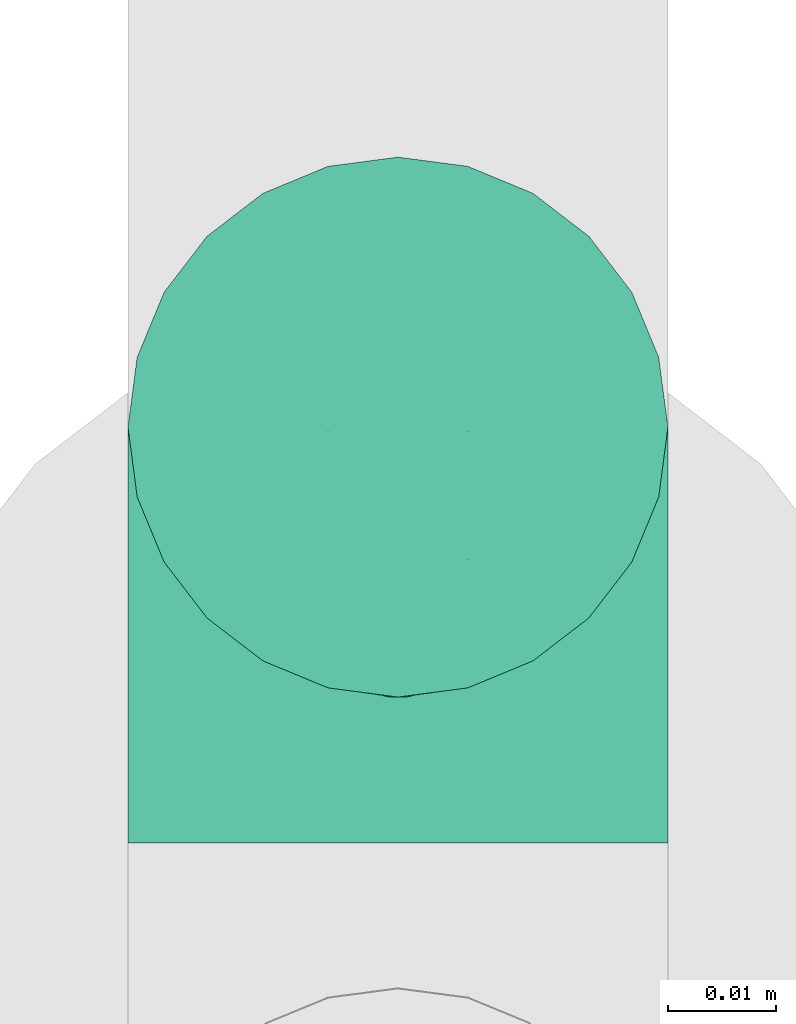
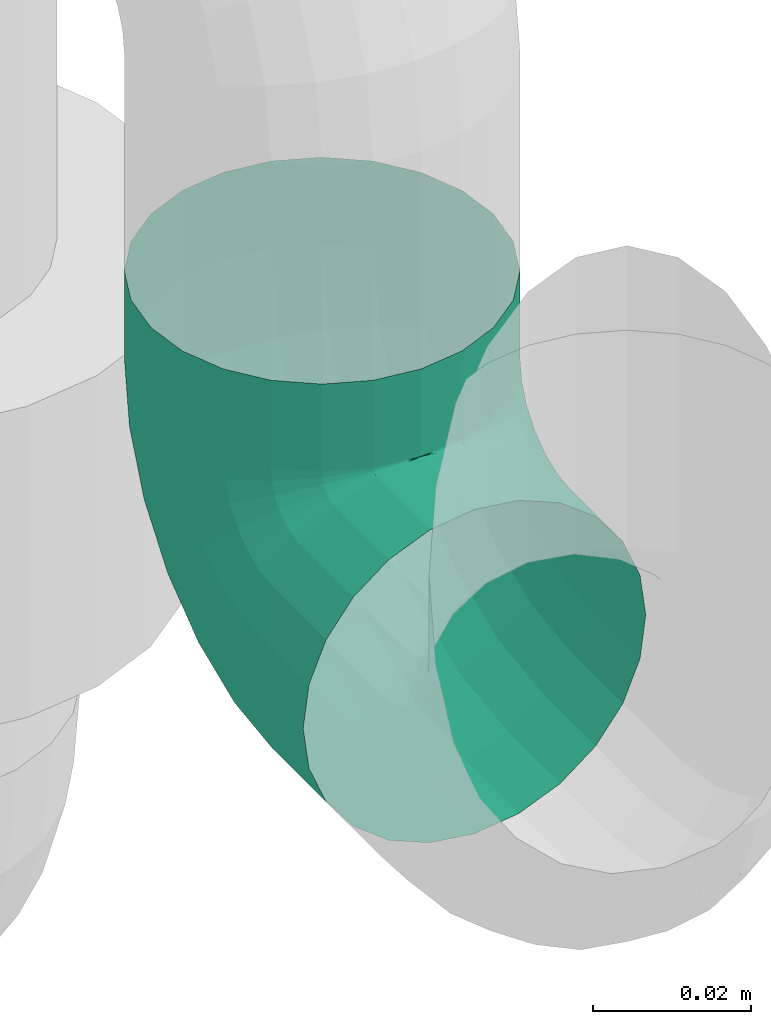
# One storey, part 296 of 374: 1 flow fitting.
"""IFC2X3 building model written with IfcOpenShell, lengths in metres."""

import ifcopenshell
import ifcopenshell.guid

model = None  # the IFC model being written
_history = None  # IfcOwnerHistory: only IFC2X3 demands one
_inside = {}  # id of a spatial element -> (the spatial element, [elements in it])
_under = {}  # id of a project, library or spatial element -> (it, [spatial elements below it])
_declared = {}  # id of a project -> (the project, [libraries it declares])
_typed = {}  # id of a type object -> (the type object, [elements of that type])
_made_of = {}  # id of a material, layer set ... -> (it, [elements and type objects made of it])


def new_model(schema):
    """Start an empty IFC model of exactly this schema.

    Asked for "IFC4X3", IfcOpenShell would pick the latest addendum, in which some entities
    have other attributes; the version numbers below select the first issue.
    IFC2X3 requires an IfcOwnerHistory on every rooted entity: one is made here for all.
    """
    global model, _history
    if schema == "IFC4X3":
        model = ifcopenshell.file(schema_version=(4, 3, 0, 0))
    else:
        model = ifcopenshell.file(schema=schema)
    _inside.clear()
    _under.clear()
    _declared.clear()
    _typed.clear()
    _made_of.clear()
    _history = None
    if model.schema == "IFC2X3":
        org = make("IfcOrganization", Name="unknown")
        user = make(
            "IfcPersonAndOrganization",
            ThePerson=make("IfcPerson", FamilyName="unknown"),
            TheOrganization=org,
        )
        app = make(
            "IfcApplication",
            ApplicationDeveloper=org,
            Version="unknown",
            ApplicationFullName="unknown",
            ApplicationIdentifier="unknown",
        )
        _history = make(
            "IfcOwnerHistory",
            OwningUser=user,
            OwningApplication=app,
            ChangeAction="ADDED",
            CreationDate=0,
        )
    return model


def make(cls, **values):
    """One entity of the class cls with the attributes given. An attribute that is None is left unset."""
    return model.create_entity(
        cls, **{name: value for name, value in values.items() if value is not None}
    )


def rooted(cls, **values):
    """An entity with a GlobalId (a new one), such as an element, a storey or a relation."""
    return make(cls, GlobalId=ifcopenshell.guid.new(), OwnerHistory=_history, **values)


def si_unit(unit_type, name, prefix=None):
    """IfcSIUnit, for example si_unit("LENGTHUNIT", "METRE", prefix="MILLI")."""
    return make("IfcSIUnit", UnitType=unit_type, Prefix=prefix, Name=name)


def assignment(units):
    """IfcUnitAssignment: the units of a project."""
    return None if units is None else make("IfcUnitAssignment", Units=units)


def point(xyz):
    """IfcCartesianPoint."""
    return None if xyz is None else make("IfcCartesianPoint", Coordinates=xyz)


def direction(xyz):
    """IfcDirection."""
    return None if xyz is None else make("IfcDirection", DirectionRatios=xyz)


def frame(location, z_axis=None, x_axis=None):
    """IfcAxis2Placement3D, a coordinate frame: its origin and axes. An axis left out is left unset."""
    return make(
        "IfcAxis2Placement3D",
        Location=point(location),
        Axis=direction(z_axis),
        RefDirection=direction(x_axis),
    )


def origin():
    """The frame at (0, 0, 0) with its axes left unset."""
    return frame((0.0, 0.0, 0.0))


def place(relative_to, where):
    """IfcLocalPlacement: puts the frame where relative to a parent placement (None: the world)."""
    return make(
        "IfcLocalPlacement", PlacementRelTo=relative_to, RelativePlacement=where
    )


def context(
    kind, dimensions, precision=None, world=None, true_north=None, identifier=None
):
    """IfcGeometricRepresentationContext, for example the 3D "Model" context."""
    return make(
        "IfcGeometricRepresentationContext",
        ContextIdentifier=identifier,
        ContextType=kind,
        CoordinateSpaceDimension=dimensions,
        Precision=precision,
        WorldCoordinateSystem=world,
        TrueNorth=true_north,
    )


def subcontext(parent, identifier, kind, view, scale=None):
    """IfcGeometricRepresentationSubContext, for example "Body" below "Model"."""
    return make(
        "IfcGeometricRepresentationSubContext",
        ContextIdentifier=identifier,
        ContextType=kind,
        ParentContext=parent,
        TargetScale=scale,
        TargetView=view,
    )


def project(units=None, contexts=None):
    """IfcProject with its units and contexts."""
    return rooted(
        "IfcProject",
        Name="project",
        RepresentationContexts=contexts,
        UnitsInContext=assignment(units),
    )


def spatial(cls, under=None, at=None, **own):
    """A site, building, storey or space (cls), placed at a placement, below another one or the project."""
    s = rooted(cls, ObjectPlacement=at, **own)
    if under is not None:
        _under.setdefault(under.id(), (under, []))[1].append(s)
    return s


def faces_of(points, faces, orient=None, outer=None):
    """IfcFace entities. A face is a list of loops; a loop is a list of indices into points, from 0.

    orient and outer hold one flag for each loop. By default every Orientation is true, the
    first loop of a face is its IfcFaceOuterBound and the others are IfcFaceBound.
    """
    made = []
    for i, loops in enumerate(faces):
        bounds = []
        for j, loop in enumerate(loops):
            is_outer = j == 0 if outer is None else outer[i][j]
            bounds.append(
                make(
                    "IfcFaceOuterBound" if is_outer else "IfcFaceBound",
                    Bound=make("IfcPolyLoop", Polygon=[points[k] for k in loop]),
                    Orientation=True if orient is None else orient[i][j],
                )
            )
        made.append(make("IfcFace", Bounds=bounds))
    return made


def open_shell(faces, orient=None, outer=None):
    """The faces of one IfcOpenShell. surface_model builds it on its shared points."""
    return ("IfcOpenShell", faces, orient, outer)


def surface_model(cls, points, shells):
    """IfcFaceBasedSurfaceModel or IfcShellBasedSurfaceModel (cls): surfaces that need not close."""
    shared = [point(p) for p in points]
    made = [make(c, CfsFaces=faces_of(shared, fs, o, b)) for c, fs, o, b in shells]
    if cls == "IfcFaceBasedSurfaceModel":
        return make(cls, FbsmFaces=made)
    return make(cls, SbsmBoundary=made)


def shape(context_of_items, identifier, shape_type, items):
    """IfcShapeRepresentation: the items that make up one representation, for example the "Body"."""
    return make(
        "IfcShapeRepresentation",
        ContextOfItems=context_of_items,
        RepresentationIdentifier=identifier,
        RepresentationType=shape_type,
        Items=items,
    )


def source(mapping_origin, context_of_items, identifier, shape_type, items):
    """IfcRepresentationMap: a shape defined once, which mapped items show again and again."""
    return make(
        "IfcRepresentationMap",
        MappingOrigin=mapping_origin,
        MappedRepresentation=shape(context_of_items, identifier, shape_type, items),
    )


def transform(
    local_origin,
    x_axis=None,
    y_axis=None,
    z_axis=None,
    scale=None,
    scale2=None,
    scale3=None,
    uniform=True,
):
    """IfcCartesianTransformationOperator3D, or its non-uniform kind. x_axis, y_axis, z_axis: its Axis1, 2, 3."""
    if uniform:
        return make(
            "IfcCartesianTransformationOperator3D",
            Axis1=direction(x_axis),
            Axis2=direction(y_axis),
            LocalOrigin=point(local_origin),
            Scale=scale,
            Axis3=direction(z_axis),
        )
    return make(
        "IfcCartesianTransformationOperator3DnonUniform",
        Axis1=direction(x_axis),
        Axis2=direction(y_axis),
        LocalOrigin=point(local_origin),
        Scale=scale,
        Axis3=direction(z_axis),
        Scale2=scale2,
        Scale3=scale3,
    )


def mapped(mapping_source, mapping_target):
    """IfcMappedItem: shows the shape of a source again, moved by a transform."""
    return make(
        "IfcMappedItem", MappingSource=mapping_source, MappingTarget=mapping_target
    )


def made_of(thing, what):
    """Note that an element or type object is made of a material, layer set ...; save() writes the relation."""
    if what is not None:
        _made_of.setdefault(what.id(), (what, []))[1].append(thing)
    return thing


def element(
    cls,
    number,
    at=None,
    inside=None,
    cuts=None,
    type_object=None,
    material=None,
    context=None,
    identifier="Body",
    shape_type=None,
    held_by="IfcProductDefinitionShape",
    body=None,
    shapes=None,
    **own,
):
    """One element of the class cls, such as IfcWall. Its Tag is "e" and its number.

    at: its placement. inside: the storey or other place that contains it. cuts: it is an
    opening in that element (IfcRelVoidsElement). A single representation is given by context,
    identifier, shape_type and body (its items); several are given by shapes. held_by: the class
    of the entity that holds the representations. save() writes the other relations.
    """
    e = rooted(cls, Tag="e%d" % number, ObjectPlacement=at, **own)
    if body is not None:
        shapes = [shape(context, identifier, shape_type, body)]
    if shapes is not None:
        e.Representation = make(held_by, Representations=shapes)
    if inside is not None:
        _inside.setdefault(inside.id(), (inside, []))[1].append(e)
    if cuts is not None:
        rooted(
            "IfcRelVoidsElement", RelatingBuildingElement=cuts, RelatedOpeningElement=e
        )
    if type_object is not None:
        _typed.setdefault(type_object.id(), (type_object, []))[1].append(e)
    return made_of(e, material)


def aggregate(whole, parts):
    """IfcRelAggregates: a whole, such as a stair, and the parts it consists of."""
    return rooted("IfcRelAggregates", RelatingObject=whole, RelatedObjects=parts)


def save(model, path):
    """Write the relations noted so far, then the file.

    IfcRelAggregates (storeys below a building ...), IfcRelContainedInSpatialStructure (elements
    in a storey), IfcRelDefinesByType, IfcRelAssociatesMaterial and IfcRelDeclares: one each for
    every whole, place, type object, material and project.
    """
    for whole, parts in _under.values():
        aggregate(whole, parts)
    for where, things in _inside.values():
        rooted(
            "IfcRelContainedInSpatialStructure",
            RelatedElements=things,
            RelatingStructure=where,
        )
    for kind, things in _typed.values():
        rooted("IfcRelDefinesByType", RelatedObjects=things, RelatingType=kind)
    for what, things in _made_of.values():
        rooted("IfcRelAssociatesMaterial", RelatedObjects=things, RelatingMaterial=what)
    for by, libraries in _declared.values():
        rooted("IfcRelDeclares", RelatingContext=by, RelatedDefinitions=libraries)
    model.write(path)


model = new_model("IFC2X3")

# Units and contexts
model_context = context("Model", 3, precision=1e-05, world=origin(), true_north=direction((-0.4480736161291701, 0.8939966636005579)))
body_context = subcontext(model_context, "Body", "Model", "MODEL_VIEW")
ifc_project = project(units=[si_unit("LENGTHUNIT", "METRE"), si_unit("AREAUNIT", "SQUARE_METRE"), si_unit("VOLUMEUNIT", "CUBIC_METRE"), si_unit("PLANEANGLEUNIT", "RADIAN"), si_unit("THERMODYNAMICTEMPERATUREUNIT", "KELVIN"), si_unit("MASSUNIT", "GRAM", prefix="KILO"), si_unit("TIMEUNIT", "SECOND")], contexts=[model_context])

# Site, building, storey
site_placement = place(None, origin())
site = spatial("IfcSite", under=ifc_project, at=site_placement, Name="Site 1", CompositionType="ELEMENT")
building_placement = place(site_placement, origin())
building = spatial("IfcBuilding", under=site, at=building_placement, Name="Undefined", CompositionType="ELEMENT")
storey_placement = place(building_placement, origin())
storey = spatial("IfcBuildingStorey", under=building, at=storey_placement, Name="Rez de chauss\x8ee", CompositionType="ELEMENT", Elevation=0.0)

# Flow fitting
shared_shape = source(origin(), body_context, "Body", "SurfaceModel", [
    surface_model("IfcFaceBasedSurfaceModel", [(0.0, 0.006526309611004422, 0.0), (0.0, 0.0, 0.0), (0.013500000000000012, 0.0, 0.0), (0.013500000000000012, 0.006526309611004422, 0.0), (0.0, -0.006303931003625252, -0.0016891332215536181), (0.013500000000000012, -0.006303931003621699, -0.0016891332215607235), (0.0, -0.011955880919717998, -0.004952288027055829), (0.013500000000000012, -0.011955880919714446, -0.004952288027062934), (0.0, -0.016570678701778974, -0.009567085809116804), (0.013500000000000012, -0.016570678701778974, -0.00956708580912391), (0.0, -0.019833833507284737, -0.015219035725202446), (0.013500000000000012, -0.019833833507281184, -0.015219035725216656), (0.0, -0.021522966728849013, -0.02152296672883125), (0.013500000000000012, -0.02152296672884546, -0.021522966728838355), (0.0, -0.021522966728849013, -0.028049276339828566), (0.013500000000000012, -0.021522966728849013, -0.028049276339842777), (0.0, -0.019833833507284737, -0.034353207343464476), (0.013500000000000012, -0.019833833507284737, -0.034353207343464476), (0.0, -0.01657067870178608, -0.04000515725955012), (0.013500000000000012, -0.01657067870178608, -0.04000515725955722), (0.0, -0.011955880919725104, -0.0446199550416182), (0.013500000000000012, -0.011955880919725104, -0.0446199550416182), (0.0, -0.00630393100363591, -0.04788310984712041), (0.013500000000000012, -0.006303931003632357, -0.047883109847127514), (0.0, -1.0658141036e-14, -0.04957224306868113), (0.013500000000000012, -7.105427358e-15, -0.04957224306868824), (0.0, 0.006526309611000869, -0.04957224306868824), (0.013500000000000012, 0.0065263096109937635, -0.04957224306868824), (0.0, 0.012830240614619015, -0.047883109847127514), (0.013500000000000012, 0.012830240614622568, -0.047883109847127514), (0.0, 0.018482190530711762, -0.0446199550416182), (0.013500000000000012, 0.018482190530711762, -0.0446199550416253), (0.0, 0.023096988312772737, -0.04000515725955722), (0.013500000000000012, 0.02309698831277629, -0.04000515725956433), (0.0, 0.026360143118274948, -0.03435320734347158), (0.013500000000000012, 0.0263601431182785, -0.03435320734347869), (0.0, 0.028049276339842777, -0.028049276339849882), (0.013500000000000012, 0.028049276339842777, -0.028049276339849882), (0.0, 0.028049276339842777, -0.02152296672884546), (0.013500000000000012, 0.028049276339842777, -0.021522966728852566), (0.0, 0.026360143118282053, -0.015219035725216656), (0.013500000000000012, 0.0263601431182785, -0.015219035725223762), (0.0, 0.023096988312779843, -0.00956708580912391), (0.013500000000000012, 0.023096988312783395, -0.009567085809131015), (0.0, 0.018482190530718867, -0.004952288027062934), (0.013500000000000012, 0.01848219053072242, -0.00495228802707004), (0.0, 0.01283024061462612, -0.0016891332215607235), (0.013500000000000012, 0.012830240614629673, -0.0016891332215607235), (0.0262204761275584, -0.019862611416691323, -0.02826786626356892), (0.02644095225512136, -0.019833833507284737, -0.021745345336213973), (0.038074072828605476, -0.014994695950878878, -0.028908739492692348), (0.03849999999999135, -0.014881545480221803, -0.02239732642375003), (0.04825298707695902, -0.007250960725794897, -0.029928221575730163), (0.04885533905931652, -0.007003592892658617, -0.0234344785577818), (0.05606354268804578, 0.002840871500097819, -0.031256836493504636), (0.05680127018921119, 0.003263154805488, -0.024786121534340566), (0.060973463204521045, 0.014593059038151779, -0.03280404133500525), (0.06179629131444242, 0.015219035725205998, -0.026360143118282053), (0.06264814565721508, 0.02720470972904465, -0.034464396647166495), (0.06349999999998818, 0.028049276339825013, -0.028049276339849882), (0.025574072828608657, -0.01825785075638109, -0.03456068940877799), (0.03682531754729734, -0.013637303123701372, -0.03516899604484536), (0.04648698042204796, -0.006287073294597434, -0.036136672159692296), (0.053900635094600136, 0.0032919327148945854, -0.03739777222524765), (0.05856105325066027, 0.014446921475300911, -0.03886635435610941), (0.06015063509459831, 0.02641769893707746, -0.04044233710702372), (0.024545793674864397, -0.015128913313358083, -0.040194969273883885), (0.034838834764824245, -0.010901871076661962, -0.04075146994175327), (0.043677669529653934, -0.004177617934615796, -0.041636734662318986), (0.05045994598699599, 0.004585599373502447, -0.0427904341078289), (0.05472346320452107, 0.014790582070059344, -0.04413394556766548), (0.0561776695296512, 0.025741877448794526, -0.04557571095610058), (0.02320571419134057, -0.010689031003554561, -0.044786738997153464), (0.03224999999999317, -0.006974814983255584, -0.04527572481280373), (0.04001650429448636, -0.0010663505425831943, -0.04605358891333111), (0.04597595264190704, 0.006633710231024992, -0.04706732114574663), (0.04972221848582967, 0.015600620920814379, -0.04824783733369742), (0.05099999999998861, 0.02522330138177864, -0.04951468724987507), (0.02164515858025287, -0.0052407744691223, -0.04802307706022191), (0.029235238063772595, -0.002123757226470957, -0.04843344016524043), (0.03575298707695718, 0.002834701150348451, -0.04908623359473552), (0.04075423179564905, 0.009296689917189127, -0.04993697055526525), (0.043898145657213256, 0.016821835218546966, -0.05092767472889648), (0.0449704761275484, 0.024897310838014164, -0.05199083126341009), (0.019970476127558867, 0.0008445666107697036, -0.049683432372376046), (0.025999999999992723, 0.0033207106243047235, -0.05000942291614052), (0.031177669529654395, 0.007259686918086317, -0.05052799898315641), (0.03515063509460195, 0.012393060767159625, -0.05120382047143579), (0.03764814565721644, 0.018371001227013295, -0.05199083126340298), (0.03849999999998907, 0.024786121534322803, -0.05283539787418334), (0.01829579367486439, 0.007152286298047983, -0.04965465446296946), (0.022764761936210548, 0.008987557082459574, -0.049896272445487), (0.02660235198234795, 0.011907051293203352, -0.050280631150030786), (0.029547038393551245, 0.015711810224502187, -0.05078153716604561), (0.031398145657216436, 0.020142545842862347, -0.051364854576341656), (0.032029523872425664, 0.024897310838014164, -0.051990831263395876), (0.01673523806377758, 0.013252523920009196, -0.047938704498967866), (0.019749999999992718, 0.014490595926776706, -0.048101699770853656), (0.022338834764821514, 0.016460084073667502, -0.04836098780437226), (0.024325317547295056, 0.019026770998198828, -0.048698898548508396), (0.025574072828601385, 0.02201574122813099, -0.049092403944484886), (0.02599999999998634, 0.025223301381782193, -0.04951468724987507), (0.01539515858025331, 0.01872955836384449, -0.044652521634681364), (0.017161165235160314, 0.019454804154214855, -0.044748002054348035), (0.018677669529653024, 0.020608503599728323, -0.0448998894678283), (0.019841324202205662, 0.022112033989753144, -0.04509783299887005), (0.02057282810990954, 0.023862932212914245, -0.04532834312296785), (0.02082233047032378, 0.025741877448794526, -0.04557571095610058), (0.01436687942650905, 0.023210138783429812, -0.04002005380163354), (0.01517468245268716, 0.023541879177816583, -0.040063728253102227), (0.015868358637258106, 0.024069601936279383, -0.040133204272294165), (0.016400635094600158, 0.024757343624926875, -0.04022374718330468), (0.016735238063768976, 0.025558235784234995, -0.040329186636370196), (0.016849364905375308, 0.02641769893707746, -0.04044233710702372), (0.013720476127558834, 0.026388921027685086, -0.03435699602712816), (0.013925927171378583, 0.026473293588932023, -0.034368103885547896), (0.01410235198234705, 0.026607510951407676, -0.03438577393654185), (0.014237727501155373, 0.026782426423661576, -0.03440880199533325), (0.014322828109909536, 0.026986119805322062, -0.03443561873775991), (0.014351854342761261, 0.02720470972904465, -0.034464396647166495), (0.013720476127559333, 0.028078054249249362, -0.02152675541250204), (0.013925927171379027, 0.028162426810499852, -0.02153786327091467), (0.01410235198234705, 0.028296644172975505, -0.021555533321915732), (0.014237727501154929, 0.028471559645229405, -0.021578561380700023), (0.014322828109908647, 0.02867525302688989, -0.02160537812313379), (0.01435185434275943, 0.02889384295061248, -0.021634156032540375), (0.01436687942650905, 0.02647329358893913, -0.015233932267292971), (0.01517468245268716, 0.026805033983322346, -0.01527760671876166), (0.015868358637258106, 0.027332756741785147, -0.015347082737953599), (0.016400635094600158, 0.02802049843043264, -0.015437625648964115), (0.01673523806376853, 0.02882139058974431, -0.015543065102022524), (0.016849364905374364, 0.029680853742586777, -0.015656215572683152), (0.01539515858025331, 0.02334435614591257, -0.009599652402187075), (0.017161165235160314, 0.024069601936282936, -0.009695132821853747), (0.018677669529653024, 0.025223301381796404, -0.009847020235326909), (0.019841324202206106, 0.026726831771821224, -0.010044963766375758), (0.020572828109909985, 0.028477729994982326, -0.010275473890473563), (0.020822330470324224, 0.03035667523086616, -0.010522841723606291), (0.016735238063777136, 0.0189044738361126, -0.005007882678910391), (0.019749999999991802, 0.020142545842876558, -0.005170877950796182), (0.022338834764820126, 0.022112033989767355, -0.005430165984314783), (0.024325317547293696, 0.024678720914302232, -0.005768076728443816), (0.02557407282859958, 0.027667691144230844, -0.006161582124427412), (0.02599999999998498, 0.030875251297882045, -0.0065838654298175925), (0.01829579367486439, 0.013456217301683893, -0.0017715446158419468), (0.022764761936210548, 0.015291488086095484, -0.002013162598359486), (0.026602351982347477, 0.018210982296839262, -0.002397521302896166), (0.029547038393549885, 0.022015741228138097, -0.0028984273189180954), (0.03139814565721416, 0.026446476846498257, -0.0034817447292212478), (0.03202952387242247, 0.031201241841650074, -0.004107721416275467), (0.019970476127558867, 0.007370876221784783, -0.00011118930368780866), (0.025999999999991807, 0.009847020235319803, -0.0004371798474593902), (0.031177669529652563, 0.013785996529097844, -0.0009557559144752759), (0.035150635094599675, 0.0189193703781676, -0.0016315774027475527), (0.037648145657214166, 0.024897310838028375, -0.0024185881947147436), (0.03849999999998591, 0.03131243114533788, -0.003263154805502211), (0.02164515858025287, 0.0010631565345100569, -0.00013996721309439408), (0.029235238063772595, 0.0041801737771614, -0.0005503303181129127), (0.03575298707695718, 0.009138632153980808, -0.0012031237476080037), (0.04075423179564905, 0.015600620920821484, -0.0020538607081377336), (0.043898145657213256, 0.023125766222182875, -0.003044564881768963), (0.0449704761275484, 0.03120124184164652, -0.004107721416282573), (0.0232057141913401, -0.005037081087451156, -0.0018559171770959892), (0.03224999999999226, -0.001322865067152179, -0.002344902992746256), (0.040016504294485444, 0.0045855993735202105, -0.0031227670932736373), (0.045975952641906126, 0.012285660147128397, -0.004136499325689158), (0.04972221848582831, 0.021252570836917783, -0.005317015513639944), (0.050999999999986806, 0.030875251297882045, -0.0065838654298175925), (0.024545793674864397, -0.010514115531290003, -0.005142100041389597), (0.03483883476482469, -0.0062870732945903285, -0.005698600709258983), (0.043677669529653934, 0.0004371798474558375, -0.006583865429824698), (0.05045994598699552, 0.00920039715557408, -0.007737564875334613), (0.05472346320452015, 0.019405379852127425, -0.00908107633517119), (0.05617766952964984, 0.03035667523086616, -0.010522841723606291), (0.025574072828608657, -0.014994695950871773, -0.009774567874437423), (0.03682531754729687, -0.010374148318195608, -0.010382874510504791), (0.04648698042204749, -0.0030239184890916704, -0.01135055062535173), (0.05390063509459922, 0.006555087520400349, -0.012611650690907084), (0.05856105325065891, 0.017710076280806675, -0.014080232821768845), (0.060150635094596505, 0.029680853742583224, -0.015656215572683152), (0.026220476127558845, -0.018173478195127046, -0.015437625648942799), (0.03807407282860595, -0.013305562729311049, -0.016078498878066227), (0.048252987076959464, -0.005561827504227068, -0.017097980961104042), (0.05606354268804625, 0.004530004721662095, -0.018426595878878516), (0.060973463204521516, 0.016282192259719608, -0.01997380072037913), (0.0626481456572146, 0.02889384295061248, -0.021634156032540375), (0.0626481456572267, 0.04058921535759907, -0.036226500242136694), (0.0635, 0.04143378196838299, -0.02981137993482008), (0.06015063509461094, 0.03980220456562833, -0.04220444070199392), (0.05617766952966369, 0.03912638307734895, -0.04733781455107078), (0.05099999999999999, 0.03860780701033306, -0.051276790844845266), (0.044970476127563, 0.03828181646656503, -0.05375293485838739), (0.03849999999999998, 0.038170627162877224, -0.05459750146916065), (0.03202952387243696, 0.03828181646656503, -0.05375293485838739), (0.025999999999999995, 0.03860780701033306, -0.051276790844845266), (0.020822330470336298, 0.03912638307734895, -0.04733781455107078), (0.01684936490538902, 0.03980220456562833, -0.04220444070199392), (0.014351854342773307, 0.04058921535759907, -0.036226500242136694), (0.013500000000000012, 0.04143378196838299, -0.02981137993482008), (0.014351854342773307, 0.0422783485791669, -0.023396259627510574), (0.01684936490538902, 0.043065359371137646, -0.01741831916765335), (0.020822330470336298, 0.04374118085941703, -0.01228494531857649), (0.025999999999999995, 0.044259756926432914, -0.008345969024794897), (0.03202952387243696, 0.04458574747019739, -0.005869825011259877), (0.03849999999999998, 0.04469693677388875, -0.005025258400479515), (0.044970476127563, 0.04458574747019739, -0.005869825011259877), (0.05099999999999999, 0.044259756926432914, -0.008345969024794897), (0.05617766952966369, 0.04374118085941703, -0.01228494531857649), (0.060150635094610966, 0.043065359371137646, -0.01741831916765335), (0.0626481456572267, 0.0422783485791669, -0.023396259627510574)], [open_shell([[[0, 1, 2, 3]], [[1, 4, 5, 2]], [[4, 6, 7, 5]], [[6, 8, 9, 7]], [[8, 10, 11, 9]], [[10, 12, 13, 11]], [[12, 14, 15, 13]], [[14, 16, 17, 15]], [[16, 18, 19, 17]], [[18, 20, 21, 19]], [[20, 22, 23, 21]], [[22, 24, 25, 23]], [[24, 26, 27, 25]], [[26, 28, 29, 27]], [[28, 30, 31, 29]], [[30, 32, 33, 31]], [[32, 34, 35, 33]], [[34, 36, 37, 35]], [[36, 38, 39, 37]], [[38, 40, 41, 39]], [[40, 42, 43, 41]], [[42, 44, 45, 43]], [[44, 46, 47, 45]], [[46, 0, 3, 47]], [[13, 15, 48, 49]], [[49, 48, 50, 51]], [[51, 50, 52, 53]], [[53, 52, 54, 55]], [[55, 54, 56, 57]], [[57, 56, 58, 59]], [[15, 17, 60, 48]], [[48, 60, 61, 50]], [[50, 61, 62, 52]], [[52, 62, 63, 54]], [[54, 63, 64, 56]], [[56, 64, 65, 58]], [[17, 19, 66, 60]], [[60, 66, 67, 61]], [[61, 67, 68, 62]], [[62, 68, 69, 63]], [[63, 69, 70, 64]], [[64, 70, 71, 65]], [[19, 21, 72, 66]], [[66, 72, 73, 67]], [[67, 73, 74, 68]], [[68, 74, 75, 69]], [[69, 75, 76, 70]], [[70, 76, 77, 71]], [[21, 23, 78, 72]], [[72, 78, 79, 73]], [[73, 79, 80, 74]], [[74, 80, 81, 75]], [[75, 81, 82, 76]], [[76, 82, 83, 77]], [[23, 25, 84, 78]], [[78, 84, 85, 79]], [[79, 85, 86, 80]], [[80, 86, 87, 81]], [[81, 87, 88, 82]], [[82, 88, 89, 83]], [[25, 27, 90, 84]], [[84, 90, 91, 85]], [[85, 91, 92, 86]], [[86, 92, 93, 87]], [[87, 93, 94, 88]], [[88, 94, 95, 89]], [[27, 29, 96, 90]], [[90, 96, 97, 91]], [[91, 97, 98, 92]], [[92, 98, 99, 93]], [[93, 99, 100, 94]], [[94, 100, 101, 95]], [[29, 31, 102, 96]], [[96, 102, 103, 97]], [[97, 103, 104, 98]], [[98, 104, 105, 99]], [[99, 105, 106, 100]], [[100, 106, 107, 101]], [[31, 33, 108, 102]], [[102, 108, 109, 103]], [[103, 109, 110, 104]], [[104, 110, 111, 105]], [[105, 111, 112, 106]], [[106, 112, 113, 107]], [[33, 35, 114, 108]], [[108, 114, 115, 109]], [[109, 115, 116, 110]], [[110, 116, 117, 111]], [[111, 117, 118, 112]], [[112, 118, 119, 113]], [[35, 37, 114]], [[114, 37, 115]], [[115, 37, 116]], [[116, 37, 117]], [[117, 37, 118]], [[118, 37, 119]], [[37, 39, 120]], [[37, 120, 121]], [[37, 121, 122]], [[37, 122, 123]], [[37, 123, 124]], [[37, 124, 125]], [[39, 41, 126, 120]], [[120, 126, 127, 121]], [[121, 127, 128, 122]], [[122, 128, 129, 123]], [[123, 129, 130, 124]], [[124, 130, 131, 125]], [[41, 43, 132, 126]], [[126, 132, 133, 127]], [[127, 133, 134, 128]], [[128, 134, 135, 129]], [[129, 135, 136, 130]], [[130, 136, 137, 131]], [[43, 45, 138, 132]], [[132, 138, 139, 133]], [[133, 139, 140, 134]], [[134, 140, 141, 135]], [[135, 141, 142, 136]], [[136, 142, 143, 137]], [[45, 47, 144, 138]], [[138, 144, 145, 139]], [[139, 145, 146, 140]], [[140, 146, 147, 141]], [[141, 147, 148, 142]], [[142, 148, 149, 143]], [[47, 3, 150, 144]], [[144, 150, 151, 145]], [[145, 151, 152, 146]], [[146, 152, 153, 147]], [[147, 153, 154, 148]], [[148, 154, 155, 149]], [[3, 2, 156, 150]], [[150, 156, 157, 151]], [[151, 157, 158, 152]], [[152, 158, 159, 153]], [[153, 159, 160, 154]], [[154, 160, 161, 155]], [[2, 5, 162, 156]], [[156, 162, 163, 157]], [[157, 163, 164, 158]], [[158, 164, 165, 159]], [[159, 165, 166, 160]], [[160, 166, 167, 161]], [[5, 7, 168, 162]], [[162, 168, 169, 163]], [[163, 169, 170, 164]], [[164, 170, 171, 165]], [[165, 171, 172, 166]], [[166, 172, 173, 167]], [[7, 9, 174, 168]], [[168, 174, 175, 169]], [[169, 175, 176, 170]], [[170, 176, 177, 171]], [[171, 177, 178, 172]], [[172, 178, 179, 173]], [[9, 11, 180, 174]], [[174, 180, 181, 175]], [[175, 181, 182, 176]], [[176, 182, 183, 177]], [[177, 183, 184, 178]], [[178, 184, 185, 179]], [[11, 13, 49, 180]], [[180, 49, 51, 181]], [[181, 51, 53, 182]], [[182, 53, 55, 183]], [[183, 55, 57, 184]], [[184, 57, 59, 185]], [[59, 58, 186, 187]], [[58, 65, 188, 186]], [[65, 71, 189, 188]], [[71, 77, 190, 189]], [[77, 83, 191, 190]], [[83, 89, 192, 191]], [[89, 95, 193, 192]], [[95, 101, 194, 193]], [[101, 107, 195, 194]], [[107, 113, 196, 195]], [[113, 119, 197, 196]], [[119, 37, 198, 197]], [[37, 125, 199, 198]], [[125, 131, 200, 199]], [[131, 137, 201, 200]], [[137, 143, 202, 201]], [[143, 149, 203, 202]], [[149, 155, 204, 203]], [[155, 161, 205, 204]], [[161, 167, 206, 205]], [[167, 173, 207, 206]], [[173, 179, 208, 207]], [[179, 185, 209, 208]], [[185, 59, 187, 209]]])]),
])
flow_fitting_placement = place(storey_placement, origin())
element("IfcFlowFitting", 1, at=flow_fitting_placement, inside=storey, Name="PE-HD équerre de raccordement 88.5°", ObjectType="PE-HD équerre de raccordement 88.5°", context=body_context, shape_type="MappedRepresentation", body=[
    mapped(shared_shape, transform((54.967510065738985, 13.783616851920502, 0.26859468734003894), x_axis=(0.0, 0.0, -1.0), y_axis=(-0.13052619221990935, -0.9914448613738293, 0.0), z_axis=(-0.9914448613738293, 0.13052619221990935, 0.0))),
])

save(model, "model.ifc")
